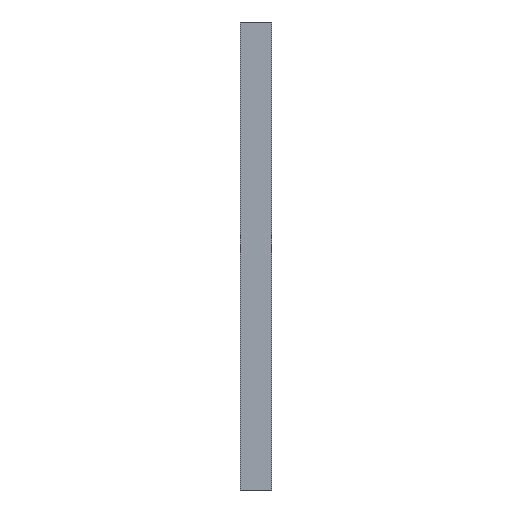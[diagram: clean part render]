
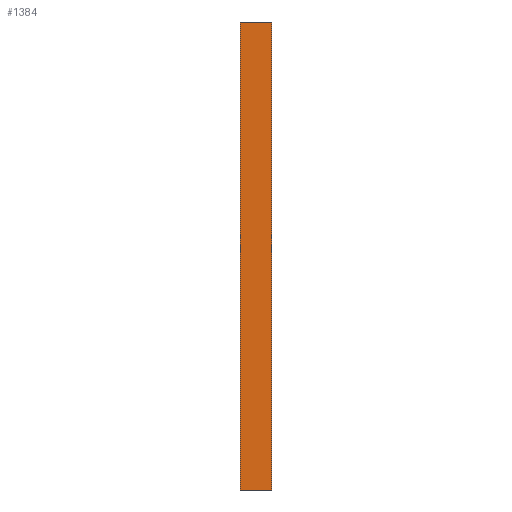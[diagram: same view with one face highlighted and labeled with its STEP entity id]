
A CAD part, front view. The second image highlights one B-rep face of the part: STEP entity #1384.
In plain terms, the highlighted planar face has unit normal (0, -1, 0).
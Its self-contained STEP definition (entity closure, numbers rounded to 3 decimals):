
#114 = VERTEX_POINT ( 'NONE', #440 ) ;
#115 = FACE_OUTER_BOUND ( 'NONE', #931, .T. ) ;
#229 = EDGE_CURVE ( 'NONE', #2117, #114, #1623, .T. ) ;
#354 = LINE ( 'NONE', #703, #1173 ) ;
#376 = VECTOR ( 'NONE', #523, 1000. ) ;
#440 = CARTESIAN_POINT ( 'NONE',  ( 100., 0., 1500. ) ) ;
#458 = DIRECTION ( 'NONE',  ( 0., 0., -1. ) ) ;
#473 = DIRECTION ( 'NONE',  ( 1., 0., 0. ) ) ;
#503 = EDGE_CURVE ( 'NONE', #2117, #707, #2354, .T. ) ;
#505 = CARTESIAN_POINT ( 'NONE',  ( -100., 0., 1500. ) ) ;
#523 = DIRECTION ( 'NONE',  ( 0., 0., -1. ) ) ;
#703 = CARTESIAN_POINT ( 'NONE',  ( -100., 0., -1500. ) ) ;
#707 = VERTEX_POINT ( 'NONE', #1924 ) ;
#931 = EDGE_LOOP ( 'NONE', ( #950, #1051, #2460, #1393 ) ) ;
#950 = ORIENTED_EDGE ( 'NONE', *, *, #1736, .T. ) ;
#1013 = AXIS2_PLACEMENT_3D ( 'NONE', #505, #2231, #1067 ) ;
#1051 = ORIENTED_EDGE ( 'NONE', *, *, #1452, .F. ) ;
#1067 = DIRECTION ( 'NONE',  ( -1., 0., 0. ) ) ;
#1113 = DIRECTION ( 'NONE',  ( 1., 0., 0. ) ) ;
#1173 = VECTOR ( 'NONE', #1113, 1000. ) ;
#1303 = LINE ( 'NONE', #1676, #376 ) ;
#1330 = VECTOR ( 'NONE', #458, 1000. ) ;
#1384 = ADVANCED_FACE ( 'NONE', ( #115 ), #2028, .F. ) ;
#1393 = ORIENTED_EDGE ( 'NONE', *, *, #503, .T. ) ;
#1430 = CARTESIAN_POINT ( 'NONE',  ( -100., 0., 1500. ) ) ;
#1452 = EDGE_CURVE ( 'NONE', #114, #2444, #1303, .T. ) ;
#1571 = VECTOR ( 'NONE', #473, 1000. ) ;
#1623 = LINE ( 'NONE', #2201, #1571 ) ;
#1676 = CARTESIAN_POINT ( 'NONE',  ( 100., 0., 1500. ) ) ;
#1736 = EDGE_CURVE ( 'NONE', #707, #2444, #354, .T. ) ;
#1924 = CARTESIAN_POINT ( 'NONE',  ( -100., 0., -1500. ) ) ;
#2028 = PLANE ( 'NONE',  #1013 ) ;
#2117 = VERTEX_POINT ( 'NONE', #1430 ) ;
#2182 = CARTESIAN_POINT ( 'NONE',  ( -100., 0., 1500. ) ) ;
#2201 = CARTESIAN_POINT ( 'NONE',  ( -100., 0., 1500. ) ) ;
#2231 = DIRECTION ( 'NONE',  ( 0., 1., 0. ) ) ;
#2354 = LINE ( 'NONE', #2182, #1330 ) ;
#2407 = CARTESIAN_POINT ( 'NONE',  ( 100., 0., -1500. ) ) ;
#2444 = VERTEX_POINT ( 'NONE', #2407 ) ;
#2460 = ORIENTED_EDGE ( 'NONE', *, *, #229, .F. ) ;
